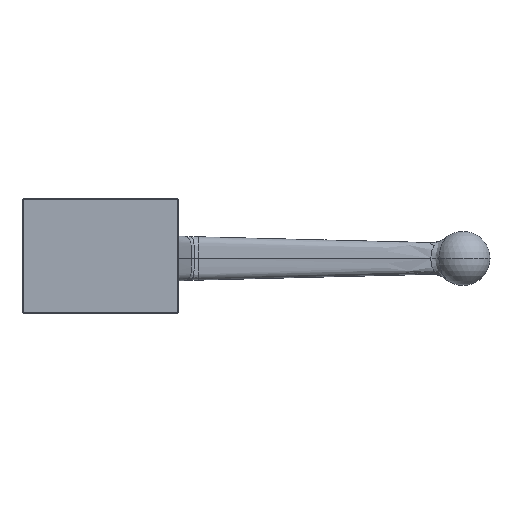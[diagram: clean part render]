
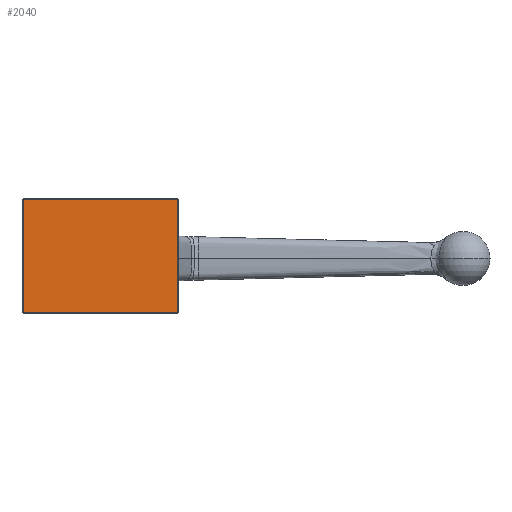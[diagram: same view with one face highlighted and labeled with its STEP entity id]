
A CAD part, left-side view. The second image highlights one B-rep face of the part: STEP entity #2040.
In plain terms, the highlighted planar face has unit normal (-1, 0, 0).
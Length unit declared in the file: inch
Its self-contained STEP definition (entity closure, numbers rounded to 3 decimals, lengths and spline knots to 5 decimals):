
#274 = AXIS2_PLACEMENT_3D ( 'NONE', #10637, #54539, #32588 ) ;
#1070 = LINE ( 'NONE', #32804, #35077 ) ;
#1691 = CARTESIAN_POINT ( 'NONE',  ( -2.0953, 2.66555, 2.42981 ) ) ;
#1741 = VERTEX_POINT ( 'NONE', #48264 ) ;
#2040 = ADVANCED_FACE ( 'NONE', ( #14673 ), #19299, .F. ) ;
#10637 = CARTESIAN_POINT ( 'NONE',  ( -2.0953, -0.06445, 2.44981 ) ) ;
#12778 = VECTOR ( 'NONE', #16728, 39.37008 ) ;
#14673 = FACE_OUTER_BOUND ( 'NONE', #24247, .T. ) ;
#16728 = DIRECTION ( 'NONE',  ( 0., 0., -1. ) ) ;
#19299 = PLANE ( 'NONE',  #274 ) ;
#24247 = EDGE_LOOP ( 'NONE', ( #38322, #37025, #29561, #35468 ) ) ;
#25113 = CARTESIAN_POINT ( 'NONE',  ( -2.0953, 2.66555, 2.44981 ) ) ;
#28573 = CARTESIAN_POINT ( 'NONE',  ( -2.0953, 2.66555, 0.43481 ) ) ;
#29561 = ORIENTED_EDGE ( 'NONE', *, *, #53530, .T. ) ;
#32588 = DIRECTION ( 'NONE',  ( 0., 1., 0. ) ) ;
#32797 = VERTEX_POINT ( 'NONE', #53157 ) ;
#32804 = CARTESIAN_POINT ( 'NONE',  ( -2.0953, -0.06445, 0.43481 ) ) ;
#35077 = VECTOR ( 'NONE', #41198, 39.37008 ) ;
#35468 = ORIENTED_EDGE ( 'NONE', *, *, #36175, .T. ) ;
#35689 = CARTESIAN_POINT ( 'NONE',  ( -2.0953, -0.04445, 2.44981 ) ) ;
#36175 = EDGE_CURVE ( 'NONE', #45274, #1741, #1070, .T. ) ;
#36265 = DIRECTION ( 'NONE',  ( 0., 1., 0. ) ) ;
#36271 = LINE ( 'NONE', #35689, #37575 ) ;
#37025 = ORIENTED_EDGE ( 'NONE', *, *, #39405, .T. ) ;
#37575 = VECTOR ( 'NONE', #53884, 39.37008 ) ;
#38322 = ORIENTED_EDGE ( 'NONE', *, *, #44303, .T. ) ;
#39405 = EDGE_CURVE ( 'NONE', #32797, #48910, #50149, .T. ) ;
#41198 = DIRECTION ( 'NONE',  ( 0., -1., 0. ) ) ;
#44303 = EDGE_CURVE ( 'NONE', #1741, #32797, #36271, .T. ) ;
#44941 = CARTESIAN_POINT ( 'NONE',  ( -2.0953, -0.06445, 2.42981 ) ) ;
#45274 = VERTEX_POINT ( 'NONE', #28573 ) ;
#48264 = CARTESIAN_POINT ( 'NONE',  ( -2.0953, -0.04445, 0.43481 ) ) ;
#48910 = VERTEX_POINT ( 'NONE', #1691 ) ;
#50149 = LINE ( 'NONE', #44941, #56113 ) ;
#53157 = CARTESIAN_POINT ( 'NONE',  ( -2.0953, -0.04445, 2.42981 ) ) ;
#53530 = EDGE_CURVE ( 'NONE', #48910, #45274, #56310, .T. ) ;
#53884 = DIRECTION ( 'NONE',  ( 0., 0., 1. ) ) ;
#54539 = DIRECTION ( 'NONE',  ( 1., 0., 0. ) ) ;
#56113 = VECTOR ( 'NONE', #36265, 39.37008 ) ;
#56310 = LINE ( 'NONE', #25113, #12778 ) ;
